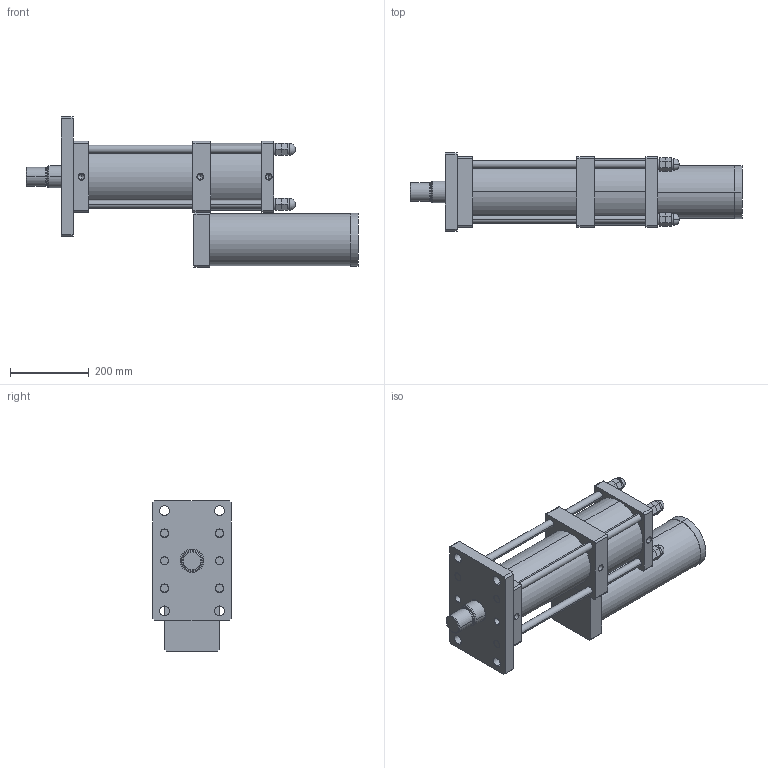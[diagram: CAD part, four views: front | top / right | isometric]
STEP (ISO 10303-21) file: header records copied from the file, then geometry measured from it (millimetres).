
FILE_DESCRIPTION (( 'STEP AP203' ), '1' );
FILE_NAME ('MPT-125-200-5-15T.STEP', '2016-03-12T01:28:31', ( 'WIN' ), ( '' ), 'SwSTEP 2.0', 'SolidWorks 2014', '' );
FILE_SCHEMA (( 'CONFIG_CONTROL_DESIGN' ));
Length unit declared in the file: millimetre
Products named in the file (1): MPT-125-200-5-15T
Bounding box: 845.5 x 200 x 382.5 mm (x, y, z)
Volume: 15146086.9 mm3; surface area: 1236649.8 mm2
Topology: 17 solids, 17 shells, 320 faces, 732 edges, 458 vertices
Faces by surface type: plane 154, cylinder 124, cone 30, sphere 8, torus 4
Entity records: 8963 total; most frequent: DIRECTION 1652, CARTESIAN_POINT 1479, ORIENTED_EDGE 1416, EDGE_CURVE 708, AXIS2_PLACEMENT_3D 623, VERTEX_POINT 450, LINE 406, VECTOR 406
